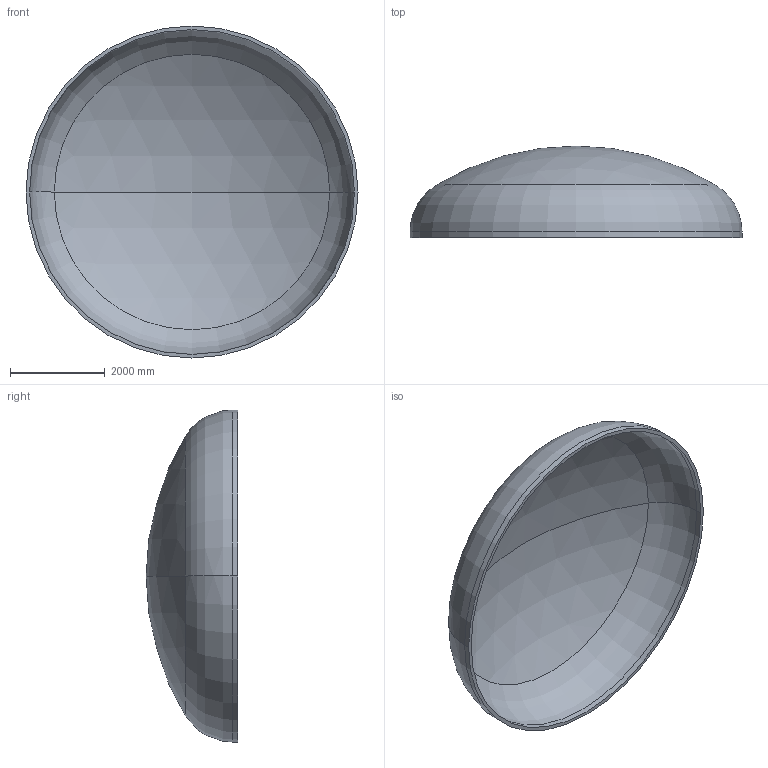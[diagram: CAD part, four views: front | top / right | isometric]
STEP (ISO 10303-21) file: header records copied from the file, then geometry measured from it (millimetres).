
FILE_DESCRIPTION (( 'STEP AP203' ), '1' );
FILE_NAME ('DIN 28013 Korbbogenform_-_Boden DIN 28013 - 7000 x 120 - I - s=76.step', '2016-07-04T10:49:03', ( '' ), ( '' ), 'SwSTEP 2.0', 'SolidWorks 2013', '' );
FILE_SCHEMA (( 'CONFIG_CONTROL_DESIGN' ));
Length unit declared in the file: millimetre
Products named in the file (1): DIN 28013 Korbbogenform_-_Boden DIN 28013 - 7000 x 120 - I - s=76
Bounding box: 7000 x 1931.28 x 7000 mm (x, y, z)
Volume: 4192927891.2 mm3; surface area: 112005444.2 mm2
Topology: 1 solids, 1 shells, 13 faces, 24 edges, 14 vertices
Faces by surface type: torus 4, cylinder 4, sphere 4, plane 1
Entity records: 407 total; most frequent: DIRECTION 72, CARTESIAN_POINT 52, ORIENTED_EDGE 48, AXIS2_PLACEMENT_3D 34, EDGE_CURVE 24, CIRCLE 20, VERTEX_POINT 14, EDGE_LOOP 14
